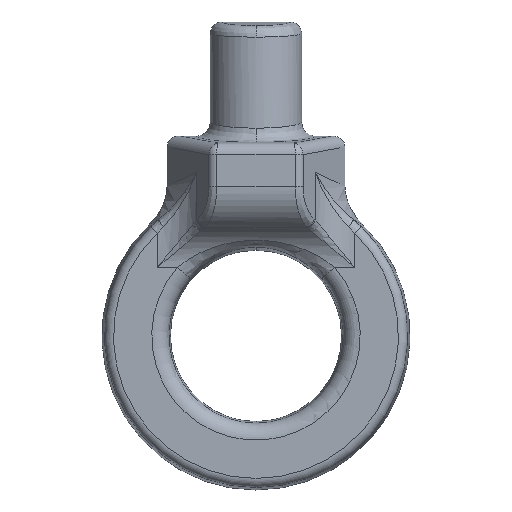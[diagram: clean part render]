
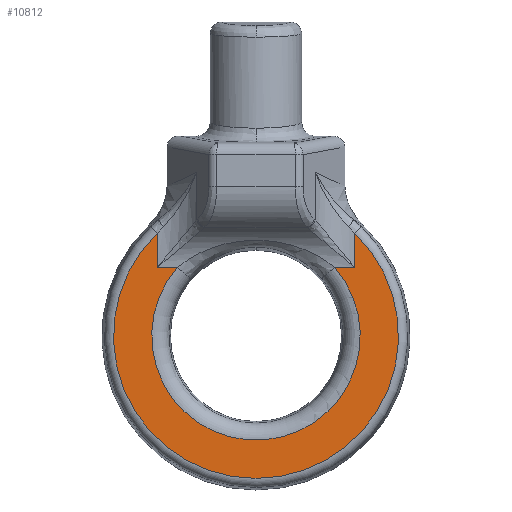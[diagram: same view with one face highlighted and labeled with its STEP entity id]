
A CAD part, front view. The second image highlights one B-rep face of the part: STEP entity #10812.
In plain terms, the highlighted planar face has unit normal (0, -1, 0).
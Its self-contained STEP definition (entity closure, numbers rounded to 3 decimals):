
#2628 = DIRECTION ( 'NONE',  ( 0., 0., 1. ) ) ;
#2630 = DIRECTION ( 'NONE',  ( 0., -1., 0. ) ) ;
#2632 = CARTESIAN_POINT ( 'NONE',  ( 0., -5., 0. ) ) ;
#2634 = AXIS2_PLACEMENT_3D ( 'NONE', #2632, #2630, #2628 ) ;
#2635 = CIRCLE ( 'NONE', #2634, 24.971 ) ;
#2642 = CARTESIAN_POINT ( 'NONE',  ( -17.321, -5., 17.987 ) ) ;
#2644 = CARTESIAN_POINT ( 'NONE',  ( -17.321, -5., 12. ) ) ;
#2646 = DIRECTION ( 'NONE',  ( 0., 0., 1. ) ) ;
#2647 = VECTOR ( 'NONE', #2646, 1000. ) ;
#2649 = CARTESIAN_POINT ( 'NONE',  ( -17.321, -5., 0. ) ) ;
#2651 = LINE ( 'NONE', #2649, #2647 ) ;
#10727 = EDGE_LOOP ( 'NONE', ( #10728, #10732, #10791, #10794, #10797, #10800 ) ) ;
#10728 = ORIENTED_EDGE ( 'NONE', *, *, #10729, .T. ) ;
#10729 = EDGE_CURVE ( 'NONE', #10730, #10731, #2651, .T. ) ;
#10730 = VERTEX_POINT ( 'NONE', #2644 ) ;
#10731 = VERTEX_POINT ( 'NONE', #2642 ) ;
#10732 = ORIENTED_EDGE ( 'NONE', *, *, #10733, .T. ) ;
#10733 = EDGE_CURVE ( 'NONE', #10731, #10790, #2635, .T. ) ;
#10790 = VERTEX_POINT ( 'NONE', #14734 ) ;
#10791 = ORIENTED_EDGE ( 'NONE', *, *, #10792, .T. ) ;
#10792 = EDGE_CURVE ( 'NONE', #10790, #10793, #14733, .T. ) ;
#10793 = VERTEX_POINT ( 'NONE', #14729 ) ;
#10794 = ORIENTED_EDGE ( 'NONE', *, *, #10795, .T. ) ;
#10795 = EDGE_CURVE ( 'NONE', #10793, #10796, #14728, .T. ) ;
#10796 = VERTEX_POINT ( 'NONE', #14724 ) ;
#10797 = ORIENTED_EDGE ( 'NONE', *, *, #10798, .T. ) ;
#10798 = EDGE_CURVE ( 'NONE', #10796, #10799, #14723, .T. ) ;
#10799 = VERTEX_POINT ( 'NONE', #14718 ) ;
#10800 = ORIENTED_EDGE ( 'NONE', *, *, #10801, .T. ) ;
#10801 = EDGE_CURVE ( 'NONE', #10799, #10730, #14717, .T. ) ;
#10812 = ADVANCED_FACE ( 'NONE', ( #14751 ), #14756, .F. ) ;
#14714 = DIRECTION ( 'NONE',  ( -1., 0., 0. ) ) ;
#14715 = VECTOR ( 'NONE', #14714, 1000. ) ;
#14716 = CARTESIAN_POINT ( 'NONE',  ( 0., -5., 12. ) ) ;
#14717 = LINE ( 'NONE', #14716, #14715 ) ;
#14718 = CARTESIAN_POINT ( 'NONE',  ( -13.774, -5., 12. ) ) ;
#14719 = DIRECTION ( 'NONE',  ( 0., 0., 1. ) ) ;
#14720 = DIRECTION ( 'NONE',  ( 0., 1., 0. ) ) ;
#14721 = CARTESIAN_POINT ( 'NONE',  ( 0., -5., 0. ) ) ;
#14722 = AXIS2_PLACEMENT_3D ( 'NONE', #14721, #14720, #14719 ) ;
#14723 = CIRCLE ( 'NONE', #14722, 18.268 ) ;
#14724 = CARTESIAN_POINT ( 'NONE',  ( 13.774, -5., 12. ) ) ;
#14725 = DIRECTION ( 'NONE',  ( -1., 0., 0. ) ) ;
#14726 = VECTOR ( 'NONE', #14725, 1000. ) ;
#14727 = CARTESIAN_POINT ( 'NONE',  ( 0., -5., 12. ) ) ;
#14728 = LINE ( 'NONE', #14727, #14726 ) ;
#14729 = CARTESIAN_POINT ( 'NONE',  ( 17.321, -5., 12. ) ) ;
#14730 = DIRECTION ( 'NONE',  ( 0., 0., -1. ) ) ;
#14731 = VECTOR ( 'NONE', #14730, 1000. ) ;
#14732 = CARTESIAN_POINT ( 'NONE',  ( 17.321, -5., 0. ) ) ;
#14733 = LINE ( 'NONE', #14732, #14731 ) ;
#14734 = CARTESIAN_POINT ( 'NONE',  ( 17.321, -5., 17.987 ) ) ;
#14742 = DIRECTION ( 'NONE',  ( 0., 0., 1. ) ) ;
#14743 = DIRECTION ( 'NONE',  ( 0., 1., 0. ) ) ;
#14744 = CARTESIAN_POINT ( 'NONE',  ( 0., -5., 0. ) ) ;
#14745 = AXIS2_PLACEMENT_3D ( 'NONE', #14744, #14743, #14742 ) ;
#14751 = FACE_OUTER_BOUND ( 'NONE', #10727, .T. ) ;
#14756 = PLANE ( 'NONE',  #14745 ) ;
